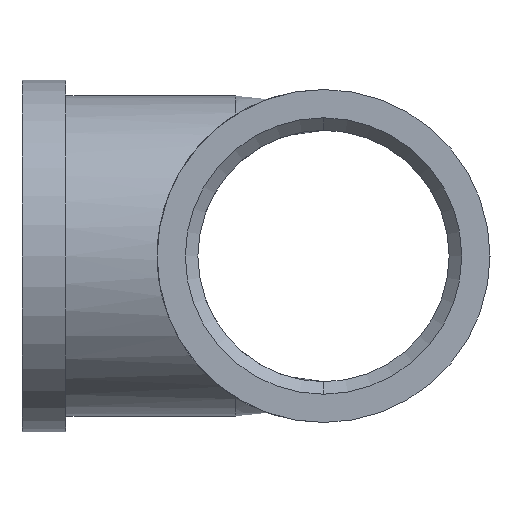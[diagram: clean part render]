
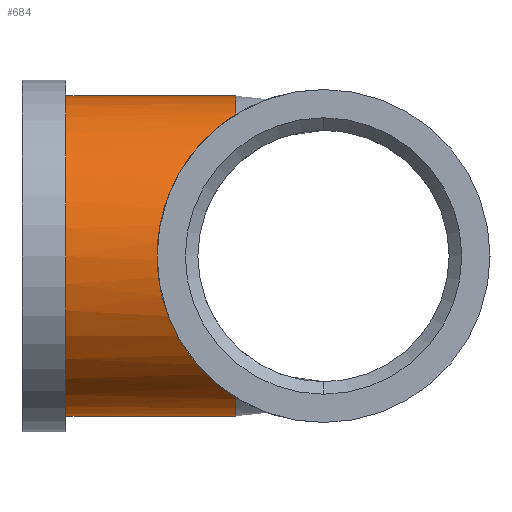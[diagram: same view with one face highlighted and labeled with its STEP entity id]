
A CAD part, left-side view. The second image highlights one B-rep face of the part: STEP entity #684.
In plain terms, the highlighted cylindrical face has radius 12.75 mm (diameter 25.5 mm), a partial arc.
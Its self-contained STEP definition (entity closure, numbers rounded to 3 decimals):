
#24 = EDGE_CURVE ( 'NONE', #1640, #1430, #857, .T. ) ;
#32 = ORIENTED_EDGE ( 'NONE', *, *, #2429, .F. ) ;
#33 = CIRCLE ( 'NONE', #313, 12.75 ) ;
#37 = CIRCLE ( 'NONE', #2124, 12.75 ) ;
#44 = CARTESIAN_POINT ( 'NONE',  ( -10.402, 11.009, -7.401 ) ) ;
#52 = DIRECTION ( 'NONE',  ( 0., 0., -1. ) ) ;
#55 = CARTESIAN_POINT ( 'NONE',  ( -12.734, 13.234, -0.749 ) ) ;
#85 = CARTESIAN_POINT ( 'NONE',  ( -9.2, 8.852, -8.847 ) ) ;
#112 = CARTESIAN_POINT ( 'NONE',  ( -10., 24., 7.91 ) ) ;
#113 = EDGE_CURVE ( 'NONE', #488, #601, #1492, .T. ) ;
#115 = CARTESIAN_POINT ( 'NONE',  ( -10., 24., -7.91 ) ) ;
#125 = VERTEX_POINT ( 'NONE', #855 ) ;
#197 = VERTEX_POINT ( 'NONE', #2968 ) ;
#209 = EDGE_CURVE ( 'NONE', #610, #488, #532, .T. ) ;
#279 = DIRECTION ( 'NONE',  ( 0., -1., 0. ) ) ;
#280 = CARTESIAN_POINT ( 'NONE',  ( -10.78, 11.366, -6.842 ) ) ;
#291 = CARTESIAN_POINT ( 'NONE',  ( -12.218, 12.739, -3.663 ) ) ;
#298 = CARTESIAN_POINT ( 'NONE',  ( -12.228, 12.749, 3.68 ) ) ;
#306 = CARTESIAN_POINT ( 'NONE',  ( -12.407, 12.921, -2.959 ) ) ;
#313 = AXIS2_PLACEMENT_3D ( 'NONE', #2877, #279, #52 ) ;
#324 = CARTESIAN_POINT ( 'NONE',  ( 0., 24., -12.75 ) ) ;
#352 = VERTEX_POINT ( 'NONE', #1401 ) ;
#372 = CYLINDRICAL_SURFACE ( 'NONE', #776, 12.75 ) ;
#488 = VERTEX_POINT ( 'NONE', #1731 ) ;
#501 = ORIENTED_EDGE ( 'NONE', *, *, #113, .T. ) ;
#520 = CARTESIAN_POINT ( 'NONE',  ( -11.431, 11.986, 5.658 ) ) ;
#532 = B_SPLINE_CURVE_WITH_KNOTS ( 'NONE', 3,
 ( #2752, #2993, #2523, #85, #707, #2616 ),
 .UNSPECIFIED., .F., .F.,
 ( 4, 2, 4 ),
 ( 0., 0.002, 0.004 ),
 .UNSPECIFIED. ) ;
#587 = DIRECTION ( 'NONE',  ( 0., 0., -1. ) ) ;
#594 = B_SPLINE_CURVE_WITH_KNOTS ( 'NONE', 3,
 ( #2668, #44, #280, #1253, #2880, #1007, #291, #306, #1467, #1982, #2637, #55, #765, #2658, #1953, #2425, #298, #2909, #2179, #520, #1496, #971, #2191, #755 ),
 .UNSPECIFIED., .F., .F.,
 ( 4, 2, 2, 2, 2, 2, 2, 2, 2, 2, 2, 4 ),
 ( 0.014, 0.016, 0.018, 0.019, 0.02, 0.022, 0.023, 0.025, 0.027, 0.028, 0.029, 0.032 ),
 .UNSPECIFIED. ) ;
#601 = VERTEX_POINT ( 'NONE', #1020 ) ;
#610 = VERTEX_POINT ( 'NONE', #1725 ) ;
#627 = EDGE_CURVE ( 'NONE', #601, #125, #594, .T. ) ;
#640 = ORIENTED_EDGE ( 'NONE', *, *, #1290, .F. ) ;
#684 = ADVANCED_FACE ( 'NONE', ( #2771 ), #372, .T. ) ;
#707 = CARTESIAN_POINT ( 'NONE',  ( -9.611, 9.277, -8.401 ) ) ;
#709 = VECTOR ( 'NONE', #2057, 1000. ) ;
#728 = CARTESIAN_POINT ( 'NONE',  ( 0., 7., 0. ) ) ;
#755 = CARTESIAN_POINT ( 'NONE',  ( -10., 10.63, 7.91 ) ) ;
#765 = CARTESIAN_POINT ( 'NONE',  ( -12.75, 13.25, -0.37 ) ) ;
#776 = AXIS2_PLACEMENT_3D ( 'NONE', #1281, #1750, #587 ) ;
#784 = CARTESIAN_POINT ( 'NONE',  ( -10., 9.679, 7.91 ) ) ;
#793 = CARTESIAN_POINT ( 'NONE',  ( -7.437, 7., 10.356 ) ) ;
#855 = CARTESIAN_POINT ( 'NONE',  ( -10., 10.63, 7.91 ) ) ;
#857 = LINE ( 'NONE', #324, #2976 ) ;
#895 = EDGE_CURVE ( 'NONE', #125, #2326, #2367, .T. ) ;
#971 = CARTESIAN_POINT ( 'NONE',  ( -10.774, 11.361, 6.852 ) ) ;
#992 = CARTESIAN_POINT ( 'NONE',  ( -9.198, 8.849, 8.849 ) ) ;
#1007 = CARTESIAN_POINT ( 'NONE',  ( -12.108, 12.633, -4.012 ) ) ;
#1020 = CARTESIAN_POINT ( 'NONE',  ( -10., 10.63, -7.91 ) ) ;
#1062 = EDGE_CURVE ( 'NONE', #197, #1640, #37, .T. ) ;
#1128 = ORIENTED_EDGE ( 'NONE', *, *, #2409, .T. ) ;
#1143 = ORIENTED_EDGE ( 'NONE', *, *, #627, .T. ) ;
#1245 = ORIENTED_EDGE ( 'NONE', *, *, #1062, .T. ) ;
#1253 = CARTESIAN_POINT ( 'NONE',  ( -11.447, 12.001, -5.657 ) ) ;
#1263 = CARTESIAN_POINT ( 'NONE',  ( -8.341, 7.955, 9.661 ) ) ;
#1281 = CARTESIAN_POINT ( 'NONE',  ( 0., 24., 0. ) ) ;
#1290 = EDGE_CURVE ( 'NONE', #610, #1430, #33, .T. ) ;
#1333 = ORIENTED_EDGE ( 'NONE', *, *, #895, .T. ) ;
#1401 = CARTESIAN_POINT ( 'NONE',  ( 0., 7., 12.75 ) ) ;
#1430 = VERTEX_POINT ( 'NONE', #1749 ) ;
#1467 = CARTESIAN_POINT ( 'NONE',  ( -12.487, 12.998, -2.6 ) ) ;
#1492 = LINE ( 'NONE', #115, #709 ) ;
#1496 = CARTESIAN_POINT ( 'NONE',  ( -11.274, 11.836, 5.965 ) ) ;
#1585 = VECTOR ( 'NONE', #1713, 1000. ) ;
#1619 = ORIENTED_EDGE ( 'NONE', *, *, #2370, .F. ) ;
#1640 = VERTEX_POINT ( 'NONE', #1868 ) ;
#1664 = CARTESIAN_POINT ( 'NONE',  ( 0., 20.5, 0. ) ) ;
#1713 = DIRECTION ( 'NONE',  ( 0., -1., 0. ) ) ;
#1725 = CARTESIAN_POINT ( 'NONE',  ( -7.437, 7., -10.356 ) ) ;
#1731 = CARTESIAN_POINT ( 'NONE',  ( -10., 9.679, -7.91 ) ) ;
#1749 = CARTESIAN_POINT ( 'NONE',  ( 0., 7., -12.75 ) ) ;
#1750 = DIRECTION ( 'NONE',  ( 0., -1., 0. ) ) ;
#1868 = CARTESIAN_POINT ( 'NONE',  ( 0., 20.5, -12.75 ) ) ;
#1953 = CARTESIAN_POINT ( 'NONE',  ( -12.684, 13.186, 1.5 ) ) ;
#1982 = CARTESIAN_POINT ( 'NONE',  ( -12.617, 13.122, -1.872 ) ) ;
#1987 = CARTESIAN_POINT ( 'NONE',  ( -9.61, 9.276, 8.403 ) ) ;
#2021 = DIRECTION ( 'NONE',  ( 0., -1., 0. ) ) ;
#2057 = DIRECTION ( 'NONE',  ( 0., 1., 0. ) ) ;
#2124 = AXIS2_PLACEMENT_3D ( 'NONE', #1664, #2564, #2815 ) ;
#2179 = CARTESIAN_POINT ( 'NONE',  ( -11.726, 12.267, 5.019 ) ) ;
#2191 = CARTESIAN_POINT ( 'NONE',  ( -10.403, 11.009, 7.4 ) ) ;
#2224 = VECTOR ( 'NONE', #2021, 1000. ) ;
#2275 = ORIENTED_EDGE ( 'NONE', *, *, #209, .T. ) ;
#2326 = VERTEX_POINT ( 'NONE', #2851 ) ;
#2367 = LINE ( 'NONE', #112, #2224 ) ;
#2370 = EDGE_CURVE ( 'NONE', #352, #2399, #2438, .T. ) ;
#2399 = VERTEX_POINT ( 'NONE', #2907 ) ;
#2409 = EDGE_CURVE ( 'NONE', #2326, #2399, #2833, .T. ) ;
#2425 = CARTESIAN_POINT ( 'NONE',  ( -12.421, 12.933, 2.976 ) ) ;
#2427 = AXIS2_PLACEMENT_3D ( 'NONE', #728, #2878, #2607 ) ;
#2429 = EDGE_CURVE ( 'NONE', #197, #352, #2995, .T. ) ;
#2438 = CIRCLE ( 'NONE', #2427, 12.75 ) ;
#2453 = CARTESIAN_POINT ( 'NONE',  ( -7.896, 7.487, 10.027 ) ) ;
#2523 = CARTESIAN_POINT ( 'NONE',  ( -8.344, 7.957, -9.659 ) ) ;
#2564 = DIRECTION ( 'NONE',  ( 0., -1., 0. ) ) ;
#2607 = DIRECTION ( 'NONE',  ( 0., 0., -1. ) ) ;
#2616 = CARTESIAN_POINT ( 'NONE',  ( -10., 9.679, -7.91 ) ) ;
#2637 = CARTESIAN_POINT ( 'NONE',  ( -12.667, 13.17, -1.502 ) ) ;
#2639 = ORIENTED_EDGE ( 'NONE', *, *, #24, .T. ) ;
#2658 = CARTESIAN_POINT ( 'NONE',  ( -12.75, 13.25, 0.756 ) ) ;
#2668 = CARTESIAN_POINT ( 'NONE',  ( -10., 10.63, -7.91 ) ) ;
#2681 = DIRECTION ( 'NONE',  ( 0., -1., 0. ) ) ;
#2752 = CARTESIAN_POINT ( 'NONE',  ( -7.437, 7., -10.356 ) ) ;
#2771 = FACE_OUTER_BOUND ( 'NONE', #3053, .T. ) ;
#2815 = DIRECTION ( 'NONE',  ( 0., 0., -1. ) ) ;
#2833 = B_SPLINE_CURVE_WITH_KNOTS ( 'NONE', 3,
 ( #784, #1987, #992, #1263, #2453, #793 ),
 .UNSPECIFIED., .F., .F.,
 ( 4, 2, 4 ),
 ( 0.023, 0.025, 0.027 ),
 .UNSPECIFIED. ) ;
#2851 = CARTESIAN_POINT ( 'NONE',  ( -10., 9.679, 7.91 ) ) ;
#2877 = CARTESIAN_POINT ( 'NONE',  ( 0., 7., 0. ) ) ;
#2878 = DIRECTION ( 'NONE',  ( 0., -1., 0. ) ) ;
#2880 = CARTESIAN_POINT ( 'NONE',  ( -11.74, 12.281, -5.026 ) ) ;
#2907 = CARTESIAN_POINT ( 'NONE',  ( -7.437, 7., 10.356 ) ) ;
#2909 = CARTESIAN_POINT ( 'NONE',  ( -11.862, 12.398, 4.689 ) ) ;
#2920 = CARTESIAN_POINT ( 'NONE',  ( 0., 24., 12.75 ) ) ;
#2968 = CARTESIAN_POINT ( 'NONE',  ( 0., 20.5, 12.75 ) ) ;
#2976 = VECTOR ( 'NONE', #2681, 1000. ) ;
#2993 = CARTESIAN_POINT ( 'NONE',  ( -7.898, 7.489, -10.025 ) ) ;
#2995 = LINE ( 'NONE', #2920, #1585 ) ;
#3053 = EDGE_LOOP ( 'NONE', ( #32, #1245, #2639, #640, #2275, #501, #1143, #1333, #1128, #1619 ) ) ;
